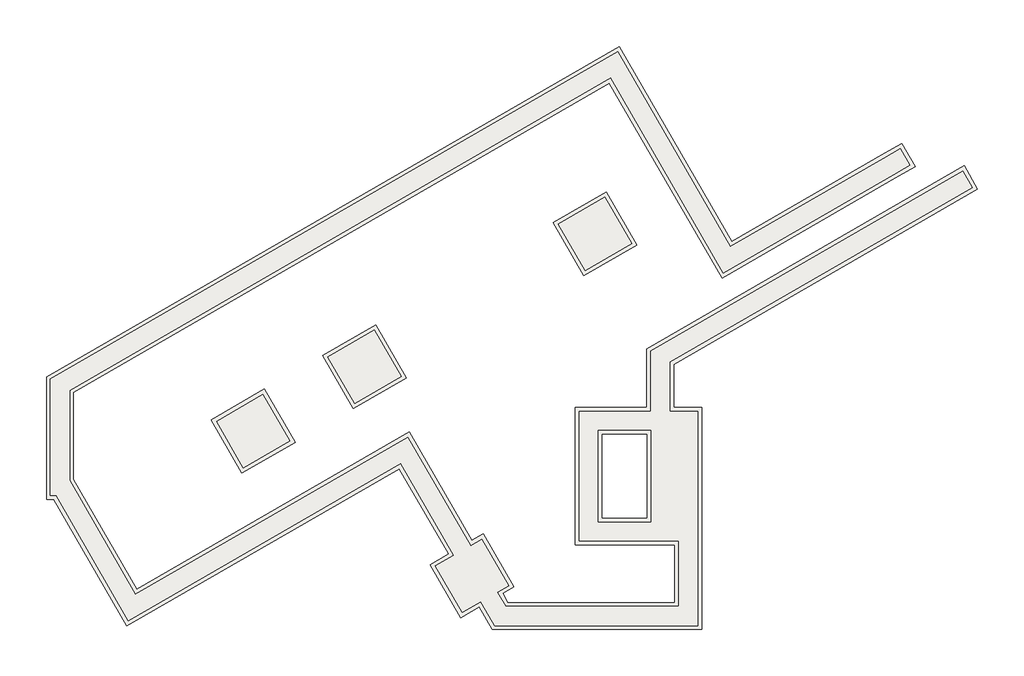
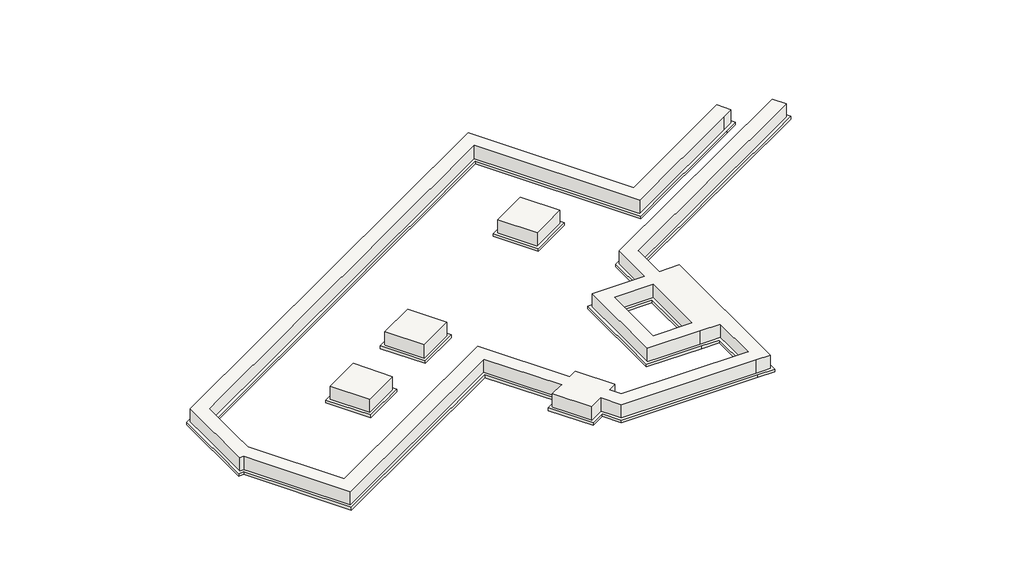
# One storey: 2 slabs.
"""IFC4 building model written with IfcOpenShell, lengths in millimetres."""

from ifc_helpers import new_model, si_unit, frame, origin, place, context, project, spatial, polyline, outline, extrude, faceted_brep, element, save

model = new_model("IFC4")

# Units and contexts
model_context = context("Model", 3, world=origin())
ifc_project = project(units=[si_unit("LENGTHUNIT", "METRE", prefix="MILLI")], contexts=[model_context])

# Site, building, storey
site = spatial("IfcSite", under=ifc_project)
building = spatial("IfcBuilding", under=site)
storey = spatial("IfcBuildingStorey", under=building, Name="КЖм.-1.700 (Верх ростверка 2)", Elevation=-1700.0)

# Slabs
placement = place(None, origin())
element("IfcSlab", 1, ObjectType="В25 500мм", at=placement, inside=storey, context=model_context, shape_type="Brep", body=[
    faceted_brep([(33123.205317, 36587.2445865, -2200.0), (33123.205317, 35304.1708635, -2200.0), (33848.2048015, 35304.1708635, -2200.0), (33848.2048015, 29704.4787198, -2200.0), (33348.2055683, 29704.4787198, -2200.0), (28546.8624097, 29704.4787198, -2200.0), (28185.7724404, 30329.6311934, -2200.0), (27700.4382534, 30049.3686923, -2200.0), (27000.3358178, 31261.7451074, -2200.0), (27485.5426244, 31541.9340511, -2200.0), (26100.2309833, 33940.3141583, -2200.0), (18988.9073476, 29833.7853703, -2200.0), (17100.8900221, 33104.4786848, -2200.0), (16953.0046517, 33104.4786848, -2200.0), (16953.0046517, 36141.3155339, -2200.0), (31762.0933814, 44692.9671816, -2200.0), (34702.5279605, 39601.0213868, -2200.0), (38785.1865185, 41959.1640674, -2200.0), (39131.5602844, 42159.2270931, -2200.0), (39381.6390666, 41726.2598857, -2200.0), (39035.2653007, 41526.19686, -2200.0), (34519.5745457, 38917.9941206, -2200.0), (31579.139351, 44009.9409816, -2200.0), (17453.0046517, 35852.6677503, -2200.0), (17453.0046517, 34254.4786622, -2200.0), (17453.0046517, 33494.6218847, -2200.0), (19171.9304593, 30516.8530521, -2200.0), (26283.1404063, 34623.316189, -2200.0), (27918.5342045, 31791.970637, -2200.0), (28212.7122327, 31961.8475432, -2200.0), (28912.8146698, 30749.4711287, -2200.0), (28618.7640205, 30579.6677795, -2200.0), (28835.4743577, 30204.4787271, -2200.0), (33348.2048015, 30204.4787271, -2200.0), (33348.2048015, 31914.4785219, -2200.0), (32623.2047569, 31914.4785219, -2200.0), (30753.2057913, 31914.4785219, -2200.0), (30753.2057913, 35304.1708635, -2200.0), (32623.0508774, 35304.1708635, -2200.0), (32623.0508774, 36875.7950184, -2200.0), (40761.4148682, 41576.4558419, -2200.0), (41011.5004154, 41143.4778822, -2200.0), (32623.2047569, 34804.4786851, -2200.0), (31253.2057913, 34804.4786851, -2200.0), (31253.2057913, 32414.4785219, -2200.0), (32623.2047569, 32414.4785219, -2200.0), (24532.9648058, 40403.8845897, -2200.0), (24273.1571847, 40253.8845897, -2200.0), (24423.1571847, 39994.0769685, -2200.0), (24682.9648058, 40144.0769685, -2200.0), (26246.5637606, 34486.7067128, -2200.0), (25986.7561395, 34336.7067128, -2200.0), (26136.7561395, 34076.8990917, -2200.0), (26396.5637606, 34226.8990917, -2200.0), (22108.348438, 39003.4434203, -2200.0), (21848.5408169, 38853.4434203, -2200.0), (21998.5408169, 38593.6357992, -2200.0), (22258.348438, 38743.6357992, -2200.0), (19683.7320702, 37603.002251, -2200.0), (19423.924449, 37453.002251, -2200.0), (19573.924449, 37193.1946298, -2200.0), (19833.7320702, 37343.1946298, -2200.0), (17259.1157016, 36202.5610828, -2200.0), (16999.3080805, 36052.5610828, -2200.0), (17149.3080805, 35792.7534617, -2200.0), (17409.1157016, 35942.7534617, -2200.0), (23817.1145276, 33084.7877773, -2200.0), (23557.3069065, 32934.7877773, -2200.0), (23707.3069065, 32674.9801562, -2200.0), (23967.1145276, 32824.9801562, -2200.0), (21479.0916008, 31734.3623652, -2200.0), (21219.2839797, 31584.3623652, -2200.0), (21369.2839797, 31324.554744, -2200.0), (21629.0916008, 31474.554744, -2200.0), (19135.2941715, 30380.2406991, -2200.0), (18875.4992725, 30230.2186658, -2200.0), (19025.5213059, 29970.4237668, -2200.0), (19285.3162048, 30120.4458001, -2200.0), (26957.5811737, 41804.325759, -2200.0), (26697.7735525, 41654.325759, -2200.0), (26847.7735525, 41394.5181379, -2200.0), (27107.5811737, 41544.5181379, -2200.0), (29382.1975403, 43204.7669277, -2200.0), (29122.3899192, 43054.7669277, -2200.0), (29272.3899192, 42794.9593065, -2200.0), (29532.1975403, 42944.9593065, -2200.0), (31738.3763693, 44563.7833289, -2200.0), (31478.5687481, 44413.7833289, -2200.0), (31628.5687481, 44153.9757078, -2200.0), (31888.3763693, 44303.9757078, -2200.0), (33188.8332958, 42052.57352, -2200.0), (32929.0256747, 41902.57352, -2200.0), (33079.0256747, 41642.7658989, -2200.0), (33338.8332958, 41792.7658989, -2200.0), (39095.0571654, 42022.5979226, -2200.0), (38835.2495443, 41872.5979226, -2200.0), (38985.2495443, 41612.7903015, -2200.0), (39245.0571654, 41762.7903015, -2200.0), (40724.8639644, 41439.9101674, -2200.0), (40465.0563433, 41289.9101674, -2200.0), (40615.0563433, 41030.1025463, -2200.0), (40874.8639644, 41180.1025463, -2200.0), (38127.0607131, 39939.437486, -2200.0), (37867.253092, 39789.437486, -2200.0), (38017.253092, 39529.6298649, -2200.0), (38277.0607131, 39679.6298649, -2200.0), (35529.2574619, 38438.9648046, -2200.0), (35269.4498407, 38288.9648046, -2200.0), (35419.4498407, 38029.1571834, -2200.0), (35679.2574619, 38179.1571834, -2200.0), (34678.7916371, 39471.7943635, -2200.0), (34418.9840159, 39321.7943635, -2200.0), (34568.9840159, 39061.9867423, -2200.0), (34828.7916371, 39211.9867423, -2200.0), (36886.9244018, 40747.1961434, -2200.0), (36627.1167807, 40597.1961434, -2200.0), (36777.1167807, 40337.3885222, -2200.0), (37036.9244018, 40487.3885222, -2200.0), (32931.4542118, 36938.4921238, -2200.0), (32671.6465907, 36788.4921238, -2200.0), (32821.6465907, 36528.6845027, -2200.0), (33081.4542118, 36678.6845027, -2200.0), (27846.8368727, 30595.7819441, -2200.0), (27587.0292515, 30445.7819441, -2200.0), (27737.0292515, 30185.9743229, -2200.0), (27996.8368727, 30335.9743229, -2200.0), (27786.4634393, 31600.1997103, -2200.0), (27526.6558182, 31450.1997103, -2200.0), (27676.6558182, 31190.3920892, -2200.0), (27936.4634393, 31340.3920892, -2200.0), (28626.2217125, 31045.8477964, -2200.0), (28366.4140914, 30895.8477964, -2200.0), (28516.4140914, 30636.0401753, -2200.0), (28776.2217125, 30786.0401753, -2200.0), (17353.204549, 34654.4787004, -2200.0), (17053.204549, 34654.4787004, -2200.0), (17053.204549, 34354.4787004, -2200.0), (17353.204549, 34354.4787004, -2200.0), (17353.204549, 33504.4786858, -2200.0), (17053.204549, 33504.4786858, -2200.0), (17053.204549, 33204.4786858, -2200.0), (17353.204549, 33204.4786858, -2200.0), (28898.2067055, 30104.4791871, -2200.0), (28598.2067055, 30104.4791871, -2200.0), (28598.2067055, 29804.4791871, -2200.0), (28898.2067055, 29804.4791871, -2200.0), (31303.2067055, 30104.4791871, -2200.0), (31003.2067055, 30104.4791871, -2200.0), (31003.2067055, 29804.4791871, -2200.0), (31303.2067055, 29804.4791871, -2200.0), (31153.2058251, 32314.4786669, -2200.0), (30853.2058251, 32314.4786669, -2200.0), (30853.2058251, 32014.4786669, -2200.0), (31153.2058251, 32014.4786669, -2200.0), (33748.2048022, 30104.478693, -2200.0), (33448.2048022, 30104.478693, -2200.0), (33448.2048022, 29804.478693, -2200.0), (33748.2048022, 29804.478693, -2200.0), (33748.2055602, 32314.4779357, -2200.0), (33448.2055602, 32314.4779357, -2200.0), (33448.2055602, 32014.4779357, -2200.0), (33748.2055602, 32014.4779357, -2200.0), (33023.0508774, 32884.4353739, -2200.0), (32723.0508774, 32884.4353739, -2200.0), (32723.0508774, 32584.4353739, -2200.0), (33023.0508774, 32584.4353739, -2200.0), (31153.2058238, 35204.1708635, -2200.0), (30853.2058238, 35204.1708635, -2200.0), (30853.2058238, 34904.1708635, -2200.0), (31153.2058238, 34904.1708635, -2200.0), (33023.2050219, 35754.4785041, -2200.0), (32723.2050219, 35754.4785041, -2200.0), (32723.2050219, 35454.4785041, -2200.0), (33023.2050219, 35454.4785041, -2200.0), (33748.2048339, 35204.1708635, -2200.0), (33448.2048339, 35204.1708635, -2200.0), (33448.2048339, 34904.1708635, -2200.0), (33748.2048339, 34904.1708635, -2200.0), (33123.205317, 35304.1708635, -1700.0), (33123.205317, 36587.2445865, -1700.0), (41011.5004154, 41143.4778822, -1700.0), (40761.4148682, 41576.4558419, -1700.0), (32623.0508774, 36875.7950184, -1700.0), (32623.0508774, 35304.1708635, -1700.0), (30753.2057913, 35304.1708635, -1700.0), (30753.2057913, 31914.4785219, -1700.0), (32623.2047569, 31914.4785219, -1700.0), (33348.2048015, 31914.4785219, -1700.0), (33348.2048015, 30204.4787271, -1700.0), (28835.4743577, 30204.4787271, -1700.0), (28618.7640205, 30579.6677795, -1700.0), (28912.8146698, 30749.4711287, -1700.0), (28212.7122327, 31961.8475432, -1700.0), (27918.5342045, 31791.970637, -1700.0), (26283.1404063, 34623.316189, -1700.0), (19171.9304593, 30516.8530521, -1700.0), (17453.0046517, 33494.6218847, -1700.0), (17453.0046517, 34254.4786622, -1700.0), (17453.0046517, 35852.6677503, -1700.0), (31579.139351, 44009.9409816, -1700.0), (34519.5745457, 38917.9941206, -1700.0), (39035.2653007, 41526.19686, -1700.0), (39381.6390666, 41726.2598857, -1700.0), (39131.5602844, 42159.2270931, -1700.0), (38785.1865185, 41959.1640674, -1700.0), (34702.5279605, 39601.0213868, -1700.0), (31762.0933814, 44692.9671816, -1700.0), (16953.0046517, 36141.3155339, -1700.0), (16953.0046517, 33104.4786848, -1700.0), (17100.8900221, 33104.4786848, -1700.0), (18988.9073476, 29833.7853703, -1700.0), (26100.2309833, 33940.3141583, -1700.0), (27485.5426244, 31541.9340511, -1700.0), (27000.3358178, 31261.7451074, -1700.0), (27700.4382534, 30049.3686923, -1700.0), (28185.7724404, 30329.6311934, -1700.0), (28546.8624097, 29704.4787198, -1700.0), (33348.2055683, 29704.4787198, -1700.0), (33848.2048015, 29704.4787198, -1700.0), (33848.2048015, 35304.1708635, -1700.0), (31253.2057913, 34804.4786851, -1700.0), (32623.2047569, 34804.4786851, -1700.0), (32623.2047569, 32414.4785219, -1700.0), (31253.2057913, 32414.4785219, -1700.0), (24273.1571847, 40253.8845897, -2150.0), (24532.9648058, 40403.8845897, -2150.0), (24682.9648058, 40144.0769685, -2150.0), (24423.1571847, 39994.0769685, -2150.0), (25986.7561395, 34336.7067128, -2150.0), (26246.5637606, 34486.7067128, -2150.0), (26396.5637606, 34226.8990917, -2150.0), (26136.7561395, 34076.8990917, -2150.0), (21848.5408169, 38853.4434203, -2150.0), (22108.348438, 39003.4434203, -2150.0), (22258.348438, 38743.6357992, -2150.0), (21998.5408169, 38593.6357992, -2150.0), (19423.924449, 37453.002251, -2150.0), (19683.7320702, 37603.002251, -2150.0), (19833.7320702, 37343.1946298, -2150.0), (19573.924449, 37193.1946298, -2150.0), (16999.3080805, 36052.5610828, -2150.0), (17259.1157016, 36202.5610828, -2150.0), (17409.1157016, 35942.7534617, -2150.0), (17149.3080805, 35792.7534617, -2150.0), (23557.3069065, 32934.7877773, -2150.0), (23817.1145276, 33084.7877773, -2150.0), (23967.1145276, 32824.9801562, -2150.0), (23707.3069065, 32674.9801562, -2150.0), (21219.2839797, 31584.3623652, -2150.0), (21479.0916008, 31734.3623652, -2150.0), (21629.0916008, 31474.554744, -2150.0), (21369.2839797, 31324.554744, -2150.0), (18875.4992725, 30230.2186658, -2150.0), (19135.2941715, 30380.2406991, -2150.0), (19285.3162048, 30120.4458001, -2150.0), (19025.5213059, 29970.4237668, -2150.0), (26697.7735525, 41654.325759, -2150.0), (26957.5811737, 41804.325759, -2150.0), (27107.5811737, 41544.5181379, -2150.0), (26847.7735525, 41394.5181379, -2150.0), (29122.3899192, 43054.7669277, -2150.0), (29382.1975403, 43204.7669277, -2150.0), (29532.1975403, 42944.9593065, -2150.0), (29272.3899192, 42794.9593065, -2150.0), (31478.5687481, 44413.7833289, -2150.0), (31738.3763693, 44563.7833289, -2150.0), (31888.3763693, 44303.9757078, -2150.0), (31628.5687481, 44153.9757078, -2150.0), (32929.0256747, 41902.57352, -2150.0), (33188.8332958, 42052.57352, -2150.0), (33338.8332958, 41792.7658989, -2150.0), (33079.0256747, 41642.7658989, -2150.0), (38835.2495443, 41872.5979226, -2150.0), (39095.0571654, 42022.5979226, -2150.0), (39245.0571654, 41762.7903015, -2150.0), (38985.2495443, 41612.7903015, -2150.0), (40465.0563433, 41289.9101674, -2150.0), (40724.8639644, 41439.9101674, -2150.0), (40874.8639644, 41180.1025463, -2150.0), (40615.0563433, 41030.1025463, -2150.0), (37867.253092, 39789.437486, -2150.0), (38127.0607131, 39939.437486, -2150.0), (38277.0607131, 39679.6298649, -2150.0), (38017.253092, 39529.6298649, -2150.0), (35269.4498407, 38288.9648046, -2150.0), (35529.2574619, 38438.9648046, -2150.0), (35679.2574619, 38179.1571834, -2150.0), (35419.4498407, 38029.1571834, -2150.0), (34418.9840159, 39321.7943635, -2150.0), (34678.7916371, 39471.7943635, -2150.0), (34828.7916371, 39211.9867423, -2150.0), (34568.9840159, 39061.9867423, -2150.0), (36627.1167807, 40597.1961434, -2150.0), (36886.9244018, 40747.1961434, -2150.0), (37036.9244018, 40487.3885222, -2150.0), (36777.1167807, 40337.3885222, -2150.0), (32671.6465907, 36788.4921238, -2150.0), (32931.4542118, 36938.4921238, -2150.0), (33081.4542118, 36678.6845027, -2150.0), (32821.6465907, 36528.6845027, -2150.0), (27587.0292515, 30445.7819441, -2150.0), (27846.8368727, 30595.7819441, -2150.0), (27996.8368727, 30335.9743229, -2150.0), (27737.0292515, 30185.9743229, -2150.0), (27526.6558182, 31450.1997103, -2150.0), (27786.4634393, 31600.1997103, -2150.0), (27936.4634393, 31340.3920892, -2150.0), (27676.6558182, 31190.3920892, -2150.0), (28366.4140914, 30895.8477964, -2150.0), (28626.2217125, 31045.8477964, -2150.0), (28776.2217125, 30786.0401753, -2150.0), (28516.4140914, 30636.0401753, -2150.0), (17053.204549, 34654.4787004, -2150.0), (17353.204549, 34654.4787004, -2150.0), (17353.204549, 34354.4787004, -2150.0), (17053.204549, 34354.4787004, -2150.0), (17053.204549, 33504.4786858, -2150.0), (17353.204549, 33504.4786858, -2150.0), (17353.204549, 33204.4786858, -2150.0), (17053.204549, 33204.4786858, -2150.0), (28598.2067055, 30104.4791871, -2150.0), (28898.2067055, 30104.4791871, -2150.0), (28898.2067055, 29804.4791871, -2150.0), (28598.2067055, 29804.4791871, -2150.0), (31003.2067055, 30104.4791871, -2150.0), (31303.2067055, 30104.4791871, -2150.0), (31303.2067055, 29804.4791871, -2150.0), (31003.2067055, 29804.4791871, -2150.0), (30853.2058251, 32314.4786669, -2150.0), (31153.2058251, 32314.4786669, -2150.0), (31153.2058251, 32014.4786669, -2150.0), (30853.2058251, 32014.4786669, -2150.0), (33448.2048022, 30104.478693, -2150.0), (33748.2048022, 30104.478693, -2150.0), (33748.2048022, 29804.478693, -2150.0), (33448.2048022, 29804.478693, -2150.0), (33448.2055602, 32314.4779357, -2150.0), (33748.2055602, 32314.4779357, -2150.0), (33748.2055602, 32014.4779357, -2150.0), (33448.2055602, 32014.4779357, -2150.0), (32723.0508774, 32884.4353739, -2150.0), (33023.0508774, 32884.4353739, -2150.0), (33023.0508774, 32584.4353739, -2150.0), (32723.0508774, 32584.4353739, -2150.0), (30853.2058238, 35204.1708635, -2150.0), (31153.2058238, 35204.1708635, -2150.0), (31153.2058238, 34904.1708635, -2150.0), (30853.2058238, 34904.1708635, -2150.0), (32723.2050219, 35754.4785041, -2150.0), (33023.2050219, 35754.4785041, -2150.0), (33023.2050219, 35454.4785041, -2150.0), (32723.2050219, 35454.4785041, -2150.0), (33448.2048339, 35204.1708635, -2150.0), (33748.2048339, 35204.1708635, -2150.0), (33748.2048339, 34904.1708635, -2150.0), (33448.2048339, 34904.1708635, -2150.0)], [[[0, 1, 2, 3, 4, 5, 6, 7, 8, 9, 10, 11, 12, 13, 14, 15, 16, 17, 18, 19, 20, 21, 22, 23, 24, 25, 26, 27, 28, 29, 30, 31, 32, 33, 34, 35, 36, 37, 38, 39, 40, 41], [42, 43, 44, 45], [46, 47, 48, 49], [50, 51, 52, 53], [54, 55, 56, 57], [58, 59, 60, 61], [62, 63, 64, 65], [66, 67, 68, 69], [70, 71, 72, 73], [74, 75, 76, 77], [78, 79, 80, 81], [82, 83, 84, 85], [86, 87, 88, 89], [90, 91, 92, 93], [94, 95, 96, 97], [98, 99, 100, 101], [102, 103, 104, 105], [106, 107, 108, 109], [110, 111, 112, 113], [114, 115, 116, 117], [118, 119, 120, 121], [122, 123, 124, 125], [126, 127, 128, 129], [130, 131, 132, 133], [134, 135, 136, 137], [138, 139, 140, 141], [142, 143, 144, 145], [146, 147, 148, 149], [150, 151, 152, 153], [154, 155, 156, 157], [158, 159, 160, 161], [162, 163, 164, 165], [166, 167, 168, 169], [170, 171, 172, 173], [174, 175, 176, 177]], [[178, 179, 180, 181, 182, 183, 184, 185, 186, 187, 188, 189, 190, 191, 192, 193, 194, 195, 196, 197, 198, 199, 200, 201, 202, 203, 204, 205, 206, 207, 208, 209, 210, 211, 212, 213, 214, 215, 216, 217, 218, 219], [220, 221, 222, 223]], [[1, 0, 179, 178]], [[3, 2, 219, 218]], [[4, 3, 218, 217]], [[5, 4, 217, 216]], [[7, 6, 215, 214]], [[8, 7, 214, 213]], [[9, 8, 213, 212]], [[13, 12, 209, 208]], [[14, 13, 208, 207]], [[15, 14, 207, 206]], [[16, 15, 206, 205]], [[17, 16, 205, 204]], [[18, 17, 204, 203]], [[19, 18, 203, 202]], [[20, 19, 202, 201]], [[21, 20, 201, 200]], [[22, 21, 200, 199]], [[23, 22, 199, 198]], [[24, 23, 198, 197]], [[25, 24, 197, 196]], [[29, 28, 193, 192]], [[30, 29, 192, 191]], [[31, 30, 191, 190]], [[33, 32, 189, 188]], [[34, 33, 188, 187]], [[35, 34, 187, 186]], [[36, 35, 186, 185]], [[37, 36, 185, 184]], [[38, 37, 184, 183]], [[39, 38, 183, 182]], [[40, 39, 182, 181]], [[41, 40, 181, 180]], [[0, 41, 180, 179]], [[43, 42, 221, 220]], [[44, 43, 220, 223]], [[45, 44, 223, 222]], [[42, 45, 222, 221]], [[224, 225, 226, 227]], [[225, 224, 47, 46]], [[224, 227, 48, 47]], [[227, 226, 49, 48]], [[226, 225, 46, 49]], [[228, 229, 230, 231]], [[229, 228, 51, 50]], [[228, 231, 52, 51]], [[231, 230, 53, 52]], [[230, 229, 50, 53]], [[232, 233, 234, 235]], [[233, 232, 55, 54]], [[232, 235, 56, 55]], [[235, 234, 57, 56]], [[234, 233, 54, 57]], [[236, 237, 238, 239]], [[237, 236, 59, 58]], [[236, 239, 60, 59]], [[239, 238, 61, 60]], [[238, 237, 58, 61]], [[240, 241, 242, 243]], [[241, 240, 63, 62]], [[240, 243, 64, 63]], [[243, 242, 65, 64]], [[242, 241, 62, 65]], [[244, 245, 246, 247]], [[245, 244, 67, 66]], [[244, 247, 68, 67]], [[247, 246, 69, 68]], [[246, 245, 66, 69]], [[248, 249, 250, 251]], [[249, 248, 71, 70]], [[248, 251, 72, 71]], [[251, 250, 73, 72]], [[250, 249, 70, 73]], [[252, 253, 254, 255]], [[253, 252, 75, 74]], [[252, 255, 76, 75]], [[255, 254, 77, 76]], [[254, 253, 74, 77]], [[256, 257, 258, 259]], [[257, 256, 79, 78]], [[256, 259, 80, 79]], [[259, 258, 81, 80]], [[258, 257, 78, 81]], [[260, 261, 262, 263]], [[261, 260, 83, 82]], [[260, 263, 84, 83]], [[263, 262, 85, 84]], [[262, 261, 82, 85]], [[264, 265, 266, 267]], [[265, 264, 87, 86]], [[264, 267, 88, 87]], [[267, 266, 89, 88]], [[266, 265, 86, 89]], [[268, 269, 270, 271]], [[269, 268, 91, 90]], [[268, 271, 92, 91]], [[271, 270, 93, 92]], [[270, 269, 90, 93]], [[272, 273, 274, 275]], [[273, 272, 95, 94]], [[272, 275, 96, 95]], [[275, 274, 97, 96]], [[274, 273, 94, 97]], [[276, 277, 278, 279]], [[277, 276, 99, 98]], [[276, 279, 100, 99]], [[279, 278, 101, 100]], [[278, 277, 98, 101]], [[280, 281, 282, 283]], [[281, 280, 103, 102]], [[280, 283, 104, 103]], [[283, 282, 105, 104]], [[282, 281, 102, 105]], [[284, 285, 286, 287]], [[285, 284, 107, 106]], [[284, 287, 108, 107]], [[287, 286, 109, 108]], [[286, 285, 106, 109]], [[288, 289, 290, 291]], [[289, 288, 111, 110]], [[288, 291, 112, 111]], [[291, 290, 113, 112]], [[290, 289, 110, 113]], [[292, 293, 294, 295]], [[293, 292, 115, 114]], [[292, 295, 116, 115]], [[295, 294, 117, 116]], [[294, 293, 114, 117]], [[296, 297, 298, 299]], [[297, 296, 119, 118]], [[296, 299, 120, 119]], [[299, 298, 121, 120]], [[298, 297, 118, 121]], [[300, 301, 302, 303]], [[301, 300, 123, 122]], [[300, 303, 124, 123]], [[303, 302, 125, 124]], [[302, 301, 122, 125]], [[304, 305, 306, 307]], [[305, 304, 127, 126]], [[304, 307, 128, 127]], [[307, 306, 129, 128]], [[306, 305, 126, 129]], [[308, 309, 310, 311]], [[309, 308, 131, 130]], [[308, 311, 132, 131]], [[311, 310, 133, 132]], [[310, 309, 130, 133]], [[312, 313, 314, 315]], [[313, 312, 135, 134]], [[312, 315, 136, 135]], [[315, 314, 137, 136]], [[314, 313, 134, 137]], [[316, 317, 318, 319]], [[317, 316, 139, 138]], [[316, 319, 140, 139]], [[319, 318, 141, 140]], [[318, 317, 138, 141]], [[320, 321, 322, 323]], [[321, 320, 143, 142]], [[320, 323, 144, 143]], [[323, 322, 145, 144]], [[322, 321, 142, 145]], [[324, 325, 326, 327]], [[325, 324, 147, 146]], [[324, 327, 148, 147]], [[327, 326, 149, 148]], [[326, 325, 146, 149]], [[328, 329, 330, 331]], [[329, 328, 151, 150]], [[328, 331, 152, 151]], [[331, 330, 153, 152]], [[330, 329, 150, 153]], [[332, 333, 334, 335]], [[333, 332, 155, 154]], [[332, 335, 156, 155]], [[335, 334, 157, 156]], [[334, 333, 154, 157]], [[336, 337, 338, 339]], [[337, 336, 159, 158]], [[336, 339, 160, 159]], [[339, 338, 161, 160]], [[338, 337, 158, 161]], [[340, 341, 342, 343]], [[341, 340, 163, 162]], [[340, 343, 164, 163]], [[343, 342, 165, 164]], [[342, 341, 162, 165]], [[344, 345, 346, 347]], [[345, 344, 167, 166]], [[344, 347, 168, 167]], [[347, 346, 169, 168]], [[346, 345, 166, 169]], [[348, 349, 350, 351]], [[349, 348, 171, 170]], [[348, 351, 172, 171]], [[351, 350, 173, 172]], [[350, 349, 170, 173]], [[2, 1, 178, 219]], [[6, 5, 216, 215]], [[10, 9, 212, 211]], [[11, 10, 211, 210]], [[12, 11, 210, 209]], [[26, 25, 196, 195]], [[27, 26, 195, 194]], [[28, 27, 194, 193]], [[32, 31, 190, 189]], [[352, 353, 354, 355]], [[353, 352, 175, 174]], [[352, 355, 176, 175]], [[355, 354, 177, 176]], [[354, 353, 174, 177]]]),
    faceted_brep([(22501.6145375, 35742.5720691, -2200.0), (23201.7169745, 34530.1956548, -2200.0), (21989.3405581, 33830.0932184, -2200.0), (21289.2381224, 35042.4696335, -2200.0), (22143.2426182, 34363.5327121, -2200.0), (21883.434997, 34213.5327121, -2200.0), (22033.434997, 33953.725091, -2200.0), (22293.2426182, 34103.725091, -2200.0), (22922.627458, 34813.5985645, -2200.0), (22662.8198368, 34663.5985645, -2200.0), (22812.8198368, 34403.7909434, -2200.0), (23072.627458, 34553.7909434, -2200.0), (22082.8691859, 35367.950479, -2200.0), (21823.0615648, 35217.950479, -2200.0), (21973.0615648, 34958.1428579, -2200.0), (22232.8691859, 35108.1428579, -2200.0), (23201.7169745, 34530.1956548, -1700.0), (22501.6145375, 35742.5720691, -1700.0), (21289.2381224, 35042.4696335, -1700.0), (21989.3405581, 33830.0932184, -1700.0), (21883.434997, 34213.5327121, -2150.0), (22143.2426182, 34363.5327121, -2150.0), (22293.2426182, 34103.725091, -2150.0), (22033.434997, 33953.725091, -2150.0), (22662.8198368, 34663.5985645, -2150.0), (22922.627458, 34813.5985645, -2150.0), (23072.627458, 34553.7909434, -2150.0), (22812.8198368, 34403.7909434, -2150.0), (21823.0615648, 35217.950479, -2150.0), (22082.8691859, 35367.950479, -2150.0), (22232.8691859, 35108.1428579, -2150.0), (21973.0615648, 34958.1428579, -2150.0)], [[[0, 1, 2, 3], [4, 5, 6, 7], [8, 9, 10, 11], [12, 13, 14, 15]], [[16, 17, 18, 19]], [[1, 0, 17, 16]], [[2, 1, 16, 19]], [[3, 2, 19, 18]], [[0, 3, 18, 17]], [[20, 21, 22, 23]], [[21, 20, 5, 4]], [[20, 23, 6, 5]], [[23, 22, 7, 6]], [[22, 21, 4, 7]], [[24, 25, 26, 27]], [[25, 24, 9, 8]], [[24, 27, 10, 9]], [[27, 26, 11, 10]], [[26, 25, 8, 11]], [[28, 29, 30, 31]], [[29, 28, 13, 12]], [[28, 31, 14, 13]], [[31, 30, 15, 14]], [[30, 29, 12, 15]]]),
    faceted_brep([(25407.3020773, 37420.4999174, -2200.0), (26107.4045143, 36208.123503, -2200.0), (24895.0280979, 35508.0210666, -2200.0), (24194.9256622, 36720.3974818, -2200.0), (25041.4340346, 36054.4385451, -2200.0), (24781.6264134, 35904.4385451, -2200.0), (24931.6264134, 35644.6309239, -2200.0), (25191.4340346, 35794.6309239, -2200.0), (25820.8188744, 36504.5043974, -2200.0), (25561.0112532, 36354.5043974, -2200.0), (25711.0112532, 36094.6967763, -2200.0), (25970.8188744, 36244.6967763, -2200.0), (24721.2529812, 36908.856312, -2200.0), (24871.2529812, 36649.0486909, -2200.0), (25131.0606024, 36799.0486909, -2200.0), (24981.0606024, 37058.856312, -2200.0), (26107.4045143, 36208.123503, -1700.0), (25407.3020773, 37420.4999174, -1700.0), (24194.9256622, 36720.3974818, -1700.0), (24895.0280979, 35508.0210666, -1700.0), (24781.6264134, 35904.4385451, -2150.0), (25041.4340346, 36054.4385451, -2150.0), (25191.4340346, 35794.6309239, -2150.0), (24931.6264134, 35644.6309239, -2150.0), (25561.0112532, 36354.5043974, -2150.0), (25820.8188744, 36504.5043974, -2150.0), (25970.8188744, 36244.6967763, -2150.0), (25711.0112532, 36094.6967763, -2150.0), (24721.2529812, 36908.856312, -2150.0), (24981.0606024, 37058.856312, -2150.0), (25131.0606024, 36799.0486909, -2150.0), (24871.2529812, 36649.0486909, -2150.0)], [[[0, 1, 2, 3], [4, 5, 6, 7], [8, 9, 10, 11], [12, 13, 14, 15]], [[16, 17, 18, 19]], [[1, 0, 17, 16]], [[2, 1, 16, 19]], [[3, 2, 19, 18]], [[0, 3, 18, 17]], [[20, 21, 22, 23]], [[21, 20, 5, 4]], [[20, 23, 6, 5]], [[23, 22, 7, 6]], [[22, 21, 4, 7]], [[24, 25, 26, 27]], [[25, 24, 9, 8]], [[24, 27, 10, 9]], [[27, 26, 11, 10]], [[26, 25, 8, 11]], [[28, 29, 30, 31]], [[29, 28, 12, 15]], [[28, 31, 13, 12]], [[31, 30, 14, 13]], [[30, 29, 15, 14]]]),
    faceted_brep([(31425.8340133, 40895.9815433, -2200.0), (32125.9364504, 39683.605129, -2200.0), (30913.560034, 38983.5026926, -2200.0), (30213.4575983, 40195.8791077, -2200.0), (30739.7707516, 40384.320229, -2200.0), (30889.7707516, 40124.5126079, -2200.0), (31149.5783727, 40274.5126079, -2200.0), (30999.5783727, 40534.320229, -2200.0), (31059.9518049, 39529.9024621, -2200.0), (30800.1441838, 39379.9024621, -2200.0), (30950.1441838, 39120.094841, -2200.0), (31209.9518049, 39270.094841, -2200.0), (31839.3366447, 39979.9683145, -2200.0), (31579.5290236, 39829.9683145, -2200.0), (31729.5290236, 39570.1606933, -2200.0), (31989.3366447, 39720.1606933, -2200.0), (32125.9364504, 39683.605129, -1700.0), (31425.8340133, 40895.9815433, -1700.0), (30213.4575983, 40195.8791077, -1700.0), (30913.560034, 38983.5026926, -1700.0), (30739.7707516, 40384.320229, -2150.0), (30999.5783727, 40534.320229, -2150.0), (31149.5783727, 40274.5126079, -2150.0), (30889.7707516, 40124.5126079, -2150.0), (30800.1441838, 39379.9024621, -2150.0), (31059.9518049, 39529.9024621, -2150.0), (31209.9518049, 39270.094841, -2150.0), (30950.1441838, 39120.094841, -2150.0), (31579.5290236, 39829.9683145, -2150.0), (31839.3366447, 39979.9683145, -2150.0), (31989.3366447, 39720.1606933, -2150.0), (31729.5290236, 39570.1606933, -2150.0)], [[[0, 1, 2, 3], [4, 5, 6, 7], [8, 9, 10, 11], [12, 13, 14, 15]], [[16, 17, 18, 19]], [[1, 0, 17, 16]], [[2, 1, 16, 19]], [[3, 2, 19, 18]], [[0, 3, 18, 17]], [[20, 21, 22, 23]], [[21, 20, 4, 7]], [[20, 23, 5, 4]], [[23, 22, 6, 5]], [[22, 21, 7, 6]], [[24, 25, 26, 27]], [[25, 24, 9, 8]], [[24, 27, 10, 9]], [[27, 26, 11, 10]], [[26, 25, 8, 11]], [[28, 29, 30, 31]], [[29, 28, 13, 12]], [[28, 31, 14, 13]], [[31, 30, 15, 14]], [[30, 29, 12, 15]]]),
])
element("IfcSlab", 2, ObjectType="Подготовка 100мм", at=placement, inside=storey, context=model_context, shape_type="SweptSolid", body=[
    extrude(outline(polyline([(33223.205317, 36529.5217529), (33223.205317, 35404.1708635), (33948.2048015, 35404.1708635), (33948.2048015, 29604.4787198), (33348.2055683, 29604.4787198), (28489.1400192, 29604.4787198), (28149.1905399, 30193.0308148), (27663.8472548, 29912.7630598), (26863.7301853, 31298.336106), (27348.9278928, 31578.5197953), (26063.6490987, 33803.7137521), (18952.3027252, 29697.1718339), (17043.1501283, 33004.4786848), (16853.0046517, 33004.4786848), (16853.0046517, 36199.0450907), (31798.6841875, 44829.5724216), (34739.1135126, 39737.635725), (38735.170315, 42045.7572506), (39168.1379695, 42295.8362911), (39518.2482645, 41689.6822007), (39085.2806524, 41439.6031847), (34482.9885016, 38781.3806344), (31542.5485449, 43873.3357416), (17553.0046517, 35794.9381935), (17553.0046517, 34254.4786622), (17553.0046517, 33521.4128918), (19208.5350816, 30653.4665885), (26319.7222909, 34759.9165952), (27955.116105, 31928.5710157), (28249.3032312, 32098.4531757), (29049.4203024, 30712.8801302), (28755.378752, 30543.0820352), (28893.1967481, 30304.4787271), (33248.2048015, 30304.4787271), (33248.2048015, 31814.4785219), (32623.2047569, 31814.4785219), (30653.2057913, 31814.4785219), (30653.2057913, 35404.1708635), (32523.0508774, 35404.1708635), (32523.0508774, 36933.5179184), (40797.9924718, 41713.0649888), (41148.1096485, 41106.9003283), (33223.205317, 36529.5217529)]), holes=[polyline([(32523.2047569, 34704.4786851), (31353.2057913, 34704.4786851), (31353.2057913, 32514.4785219), (32523.2047569, 32514.4785219), (32523.2047569, 34704.4786851)]), polyline([(24532.9648058, 40403.8845897), (24273.1571847, 40253.8845897), (24423.1571847, 39994.0769685), (24682.9648058, 40144.0769685), (24532.9648058, 40403.8845897)]), polyline([(26246.5637606, 34486.7067128), (25986.7561395, 34336.7067128), (26136.7561395, 34076.8990917), (26396.5637606, 34226.8990917), (26246.5637606, 34486.7067128)]), polyline([(22108.348438, 39003.4434203), (21848.5408169, 38853.4434203), (21998.5408169, 38593.6357992), (22258.348438, 38743.6357992), (22108.348438, 39003.4434203)]), polyline([(19683.7320702, 37603.002251), (19423.924449, 37453.002251), (19573.924449, 37193.1946298), (19833.7320702, 37343.1946298), (19683.7320702, 37603.002251)]), polyline([(17259.1157016, 36202.5610828), (16999.3080805, 36052.5610828), (17149.3080805, 35792.7534617), (17409.1157016, 35942.7534617), (17259.1157016, 36202.5610828)]), polyline([(23817.1145276, 33084.7877773), (23557.3069065, 32934.7877773), (23707.3069065, 32674.9801562), (23967.1145276, 32824.9801562), (23817.1145276, 33084.7877773)]), polyline([(21479.0916008, 31734.3623652), (21219.2839797, 31584.3623652), (21369.2839797, 31324.554744), (21629.0916008, 31474.554744), (21479.0916008, 31734.3623652)]), polyline([(19135.2941715, 30380.2406991), (18875.4992725, 30230.2186658), (19025.5213059, 29970.4237668), (19285.3162048, 30120.4458001), (19135.2941715, 30380.2406991)]), polyline([(26957.5811737, 41804.325759), (26697.7735525, 41654.325759), (26847.7735525, 41394.5181379), (27107.5811737, 41544.5181379), (26957.5811737, 41804.325759)]), polyline([(29382.1975403, 43204.7669277), (29122.3899192, 43054.7669277), (29272.3899192, 42794.9593065), (29532.1975403, 42944.9593065), (29382.1975403, 43204.7669277)]), polyline([(31738.3763693, 44563.7833289), (31478.5687481, 44413.7833289), (31628.5687481, 44153.9757078), (31888.3763693, 44303.9757078), (31738.3763693, 44563.7833289)]), polyline([(33188.8332958, 42052.57352), (32929.0256747, 41902.57352), (33079.0256747, 41642.7658989), (33338.8332958, 41792.7658989), (33188.8332958, 42052.57352)]), polyline([(39095.0571654, 42022.5979226), (38835.2495443, 41872.5979226), (38985.2495443, 41612.7903015), (39245.0571654, 41762.7903015), (39095.0571654, 42022.5979226)]), polyline([(40724.8639644, 41439.9101674), (40465.0563433, 41289.9101674), (40615.0563433, 41030.1025463), (40874.8639644, 41180.1025463), (40724.8639644, 41439.9101674)]), polyline([(38127.0607131, 39939.437486), (37867.253092, 39789.437486), (38017.253092, 39529.6298649), (38277.0607131, 39679.6298649), (38127.0607131, 39939.437486)]), polyline([(35529.2574619, 38438.9648046), (35269.4498407, 38288.9648046), (35419.4498407, 38029.1571834), (35679.2574619, 38179.1571834), (35529.2574619, 38438.9648046)]), polyline([(34678.7916371, 39471.7943635), (34418.9840159, 39321.7943635), (34568.9840159, 39061.9867423), (34828.7916371, 39211.9867423), (34678.7916371, 39471.7943635)]), polyline([(36886.9244018, 40747.1961434), (36627.1167807, 40597.1961434), (36777.1167807, 40337.3885222), (37036.9244018, 40487.3885222), (36886.9244018, 40747.1961434)]), polyline([(32931.4542118, 36938.4921238), (32671.6465907, 36788.4921238), (32821.6465907, 36528.6845027), (33081.4542118, 36678.6845027), (32931.4542118, 36938.4921238)]), polyline([(27846.8368727, 30595.7819441), (27587.0292515, 30445.7819441), (27737.0292515, 30185.9743229), (27996.8368727, 30335.9743229), (27846.8368727, 30595.7819441)]), polyline([(27786.4634393, 31600.1997103), (27526.6558182, 31450.1997103), (27676.6558182, 31190.3920892), (27936.4634393, 31340.3920892), (27786.4634393, 31600.1997103)]), polyline([(28626.2217125, 31045.8477964), (28366.4140914, 30895.8477964), (28516.4140914, 30636.0401753), (28776.2217125, 30786.0401753), (28626.2217125, 31045.8477964)]), polyline([(17353.204549, 34654.4787004), (17053.204549, 34654.4787004), (17053.204549, 34354.4787004), (17353.204549, 34354.4787004), (17353.204549, 34654.4787004)]), polyline([(17353.204549, 33504.4786858), (17053.204549, 33504.4786858), (17053.204549, 33204.4786858), (17353.204549, 33204.4786858), (17353.204549, 33504.4786858)]), polyline([(28898.2067055, 30104.4791871), (28598.2067055, 30104.4791871), (28598.2067055, 29804.4791871), (28898.2067055, 29804.4791871), (28898.2067055, 30104.4791871)]), polyline([(31303.2067055, 30104.4791871), (31003.2067055, 30104.4791871), (31003.2067055, 29804.4791871), (31303.2067055, 29804.4791871), (31303.2067055, 30104.4791871)]), polyline([(31153.2058251, 32314.4786669), (30853.2058251, 32314.4786669), (30853.2058251, 32014.4786669), (31153.2058251, 32014.4786669), (31153.2058251, 32314.4786669)]), polyline([(33748.2048022, 30104.478693), (33448.2048022, 30104.478693), (33448.2048022, 29804.478693), (33748.2048022, 29804.478693), (33748.2048022, 30104.478693)]), polyline([(33748.2055602, 32314.4779357), (33448.2055602, 32314.4779357), (33448.2055602, 32014.4779357), (33748.2055602, 32014.4779357), (33748.2055602, 32314.4779357)]), polyline([(33023.0508774, 32884.4353739), (32723.0508774, 32884.4353739), (32723.0508774, 32584.4353739), (33023.0508774, 32584.4353739), (33023.0508774, 32884.4353739)]), polyline([(31153.2058238, 35204.1708635), (30853.2058238, 35204.1708635), (30853.2058238, 34904.1708635), (31153.2058238, 34904.1708635), (31153.2058238, 35204.1708635)]), polyline([(33023.2050219, 35754.4785041), (32723.2050219, 35754.4785041), (32723.2050219, 35454.4785041), (33023.2050219, 35454.4785041), (33023.2050219, 35754.4785041)]), polyline([(33748.2048339, 35204.1708635), (33448.2048339, 35204.1708635), (33448.2048339, 34904.1708635), (33748.2048339, 34904.1708635), (33748.2048339, 35204.1708635)])]), frame((0.0, 0.0, -2300.0), z_axis=(0.0, 0.0, 1.0), x_axis=(1.0, 0.0, 0.0)), (0.0, 0.0, 1.0), 100.0),
    extrude(outline(polyline([(22538.205536, 35879.1777015), (23338.3226071, 34493.6046562), (21952.7495595, 33693.4875859), (21152.63249, 35079.0606321), (22538.205536, 35879.1777015)]), holes=[polyline([(22143.2426182, 34363.5327121), (21883.434997, 34213.5327121), (22033.434997, 33953.725091), (22293.2426182, 34103.725091), (22143.2426182, 34363.5327121)]), polyline([(22922.627458, 34813.5985645), (22662.8198368, 34663.5985645), (22812.8198368, 34403.7909434), (23072.627458, 34553.7909434), (22922.627458, 34813.5985645)]), polyline([(22082.8691859, 35367.950479), (21823.0615648, 35217.950479), (21973.0615648, 34958.1428579), (22232.8691859, 35108.1428579), (22082.8691859, 35367.950479)])]), frame((0.0, 0.0, -2300.0), z_axis=(0.0, 0.0, 1.0), x_axis=(1.0, 0.0, 0.0)), (0.0, 0.0, 1.0), 100.0),
    extrude(outline(polyline([(25443.8930758, 37557.1055498), (26244.0101469, 36171.5325045), (24858.4370993, 35371.4154342), (24058.3200298, 36756.9884804), (25443.8930758, 37557.1055498)]), holes=[polyline([(25041.4340346, 36054.4385451), (24781.6264134, 35904.4385451), (24931.6264134, 35644.6309239), (25191.4340346, 35794.6309239), (25041.4340346, 36054.4385451)]), polyline([(25820.8188744, 36504.5043974), (25561.0112532, 36354.5043974), (25711.0112532, 36094.6967763), (25970.8188744, 36244.6967763), (25820.8188744, 36504.5043974)]), polyline([(24981.0606024, 37058.856312), (24721.2529812, 36908.856312), (24871.2529812, 36649.0486909), (25131.0606024, 36799.0486909), (24981.0606024, 37058.856312)])]), frame((0.0, 0.0, -2300.0), z_axis=(0.0, 0.0, 1.0), x_axis=(1.0, 0.0, 0.0)), (0.0, 0.0, 1.0), 100.0),
    extrude(outline(polyline([(31462.4250118, 41032.5871757), (32262.5420829, 39647.0141304), (30876.9690354, 38846.8970601), (30076.8519658, 40232.4701063), (31462.4250118, 41032.5871757)]), holes=[polyline([(30999.5783727, 40534.320229), (30739.7707516, 40384.320229), (30889.7707516, 40124.5126079), (31149.5783727, 40274.5126079), (30999.5783727, 40534.320229)]), polyline([(31059.9518049, 39529.9024621), (30800.1441838, 39379.9024621), (30950.1441838, 39120.094841), (31209.9518049, 39270.094841), (31059.9518049, 39529.9024621)]), polyline([(31839.3366447, 39979.9683145), (31579.5290236, 39829.9683145), (31729.5290236, 39570.1606933), (31989.3366447, 39720.1606933), (31839.3366447, 39979.9683145)])]), frame((0.0, 0.0, -2300.0), z_axis=(0.0, 0.0, 1.0), x_axis=(1.0, 0.0, 0.0)), (0.0, 0.0, 1.0), 100.0),
])

save(model, "model.ifc")
